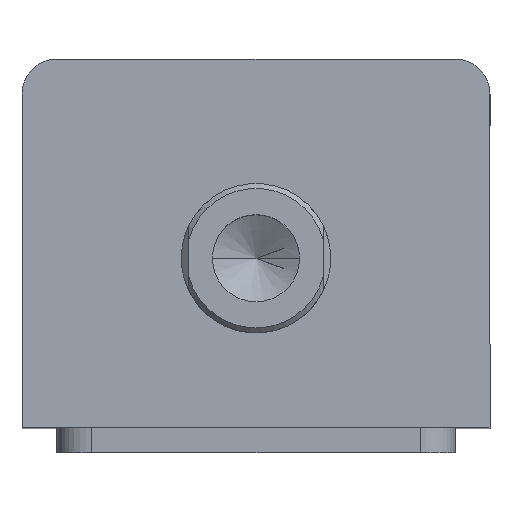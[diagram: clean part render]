
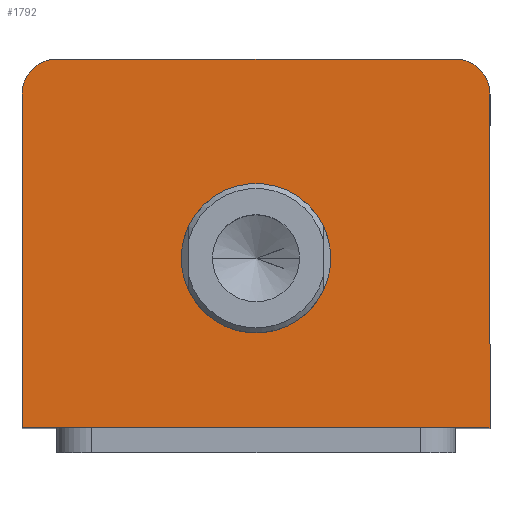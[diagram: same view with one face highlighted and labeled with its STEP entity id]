
A CAD part, top view. The second image highlights one B-rep face of the part: STEP entity #1792.
In plain terms, the highlighted planar face has unit normal (0, 0, 1).
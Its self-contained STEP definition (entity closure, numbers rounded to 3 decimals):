
#264 = VERTEX_POINT ( 'NONE', #1102 ) ;
#273 = VERTEX_POINT ( 'NONE', #1092 ) ;
#424 = FACE_BOUND ( 'NONE', #2170, .T. ) ;
#429 = FACE_OUTER_BOUND ( 'NONE', #2171, .T. ) ;
#762 = CIRCLE ( 'NONE', #1691, 15. ) ;
#764 = LINE ( 'NONE', #1338, #766 ) ;
#766 = VECTOR ( 'NONE', #1337, 1000. ) ;
#798 = LINE ( 'NONE', #2585, #801 ) ;
#801 = VECTOR ( 'NONE', #2584, 1000. ) ;
#802 = CIRCLE ( 'NONE', #1671, 7. ) ;
#811 = CIRCLE ( 'NONE', #1644, 7. ) ;
#824 = LINE ( 'NONE', #2373, #827 ) ;
#827 = VECTOR ( 'NONE', #2366, 1000. ) ;
#850 = CIRCLE ( 'NONE', #1632, 15. ) ;
#941 = LINE ( 'NONE', #2341, #944 ) ;
#944 = VECTOR ( 'NONE', #2339, 1000. ) ;
#1092 = CARTESIAN_POINT ( 'NONE',  ( -47., 30., 160. ) ) ;
#1102 = CARTESIAN_POINT ( 'NONE',  ( -40., 37., 160. ) ) ;
#1249 = AXIS2_PLACEMENT_3D ( 'NONE', #1542, #1519, #1499 ) ;
#1325 = DIRECTION ( 'NONE',  ( 1., 0., 0. ) ) ;
#1326 = DIRECTION ( 'NONE',  ( 0., 0., 1. ) ) ;
#1327 = CARTESIAN_POINT ( 'NONE',  ( 0., -3., 160. ) ) ;
#1337 = DIRECTION ( 'NONE',  ( -1., 0., 0. ) ) ;
#1338 = CARTESIAN_POINT ( 'NONE',  ( -47., 37., 160. ) ) ;
#1499 = DIRECTION ( 'NONE',  ( 1., 0., 0. ) ) ;
#1519 = DIRECTION ( 'NONE',  ( 0., 0., 1. ) ) ;
#1529 = PLANE ( 'NONE',  #1249 ) ;
#1542 = CARTESIAN_POINT ( 'NONE',  ( 0., 0., 160. ) ) ;
#1632 = AXIS2_PLACEMENT_3D ( 'NONE', #2544, #2543, #2542 ) ;
#1644 = AXIS2_PLACEMENT_3D ( 'NONE', #2471, #2468, #2466 ) ;
#1671 = AXIS2_PLACEMENT_3D ( 'NONE', #2547, #2546, #2541 ) ;
#1691 = AXIS2_PLACEMENT_3D ( 'NONE', #1327, #1326, #1325 ) ;
#1792 = ADVANCED_FACE ( 'NONE', ( #424, #429 ), #1529, .T. ) ;
#1924 = EDGE_CURVE ( 'NONE', #2226, #2225, #762, .T. ) ;
#1925 = EDGE_CURVE ( 'NONE', #2276, #264, #764, .T. ) ;
#1943 = EDGE_CURVE ( 'NONE', #2231, #2254, #798, .T. ) ;
#1947 = EDGE_CURVE ( 'NONE', #2254, #2276, #802, .T. ) ;
#1955 = EDGE_CURVE ( 'NONE', #264, #273, #811, .T. ) ;
#1964 = EDGE_CURVE ( 'NONE', #273, #2203, #824, .T. ) ;
#2003 = ORIENTED_EDGE ( 'NONE', *, *, #1947, .T. ) ;
#2004 = ORIENTED_EDGE ( 'NONE', *, *, #1943, .T. ) ;
#2005 = ORIENTED_EDGE ( 'NONE', *, *, #2737, .T. ) ;
#2006 = ORIENTED_EDGE ( 'NONE', *, *, #1964, .T. ) ;
#2007 = ORIENTED_EDGE ( 'NONE', *, *, #1955, .T. ) ;
#2008 = ORIENTED_EDGE ( 'NONE', *, *, #1925, .T. ) ;
#2009 = ORIENTED_EDGE ( 'NONE', *, *, #1924, .F. ) ;
#2010 = ORIENTED_EDGE ( 'NONE', *, *, #2679, .F. ) ;
#2170 = EDGE_LOOP ( 'NONE', ( #2010, #2009 ) ) ;
#2171 = EDGE_LOOP ( 'NONE', ( #2008, #2007, #2006, #2005, #2004, #2003 ) ) ;
#2203 = VERTEX_POINT ( 'NONE', #2400 ) ;
#2225 = VERTEX_POINT ( 'NONE', #2298 ) ;
#2226 = VERTEX_POINT ( 'NONE', #2294 ) ;
#2231 = VERTEX_POINT ( 'NONE', #2637 ) ;
#2254 = VERTEX_POINT ( 'NONE', #2612 ) ;
#2276 = VERTEX_POINT ( 'NONE', #2583 ) ;
#2294 = CARTESIAN_POINT ( 'NONE',  ( -15., -3., 160. ) ) ;
#2298 = CARTESIAN_POINT ( 'NONE',  ( 15., -3., 160. ) ) ;
#2339 = DIRECTION ( 'NONE',  ( 1., 0., 0. ) ) ;
#2341 = CARTESIAN_POINT ( 'NONE',  ( -47., -37., 160. ) ) ;
#2366 = DIRECTION ( 'NONE',  ( 0., -1., 0. ) ) ;
#2373 = CARTESIAN_POINT ( 'NONE',  ( -47., 37., 160. ) ) ;
#2400 = CARTESIAN_POINT ( 'NONE',  ( -47., -37., 160. ) ) ;
#2466 = DIRECTION ( 'NONE',  ( 1., 0., 0. ) ) ;
#2468 = DIRECTION ( 'NONE',  ( 0., 0., 1. ) ) ;
#2471 = CARTESIAN_POINT ( 'NONE',  ( -40., 30., 160. ) ) ;
#2541 = DIRECTION ( 'NONE',  ( 1., 0., 0. ) ) ;
#2542 = DIRECTION ( 'NONE',  ( 1., 0., 0. ) ) ;
#2543 = DIRECTION ( 'NONE',  ( 0., 0., 1. ) ) ;
#2544 = CARTESIAN_POINT ( 'NONE',  ( 0., -3., 160. ) ) ;
#2546 = DIRECTION ( 'NONE',  ( 0., 0., 1. ) ) ;
#2547 = CARTESIAN_POINT ( 'NONE',  ( 40., 30., 160. ) ) ;
#2583 = CARTESIAN_POINT ( 'NONE',  ( 40., 37., 160. ) ) ;
#2584 = DIRECTION ( 'NONE',  ( 0., 1., 0. ) ) ;
#2585 = CARTESIAN_POINT ( 'NONE',  ( 47., 37., 160. ) ) ;
#2612 = CARTESIAN_POINT ( 'NONE',  ( 47., 30., 160. ) ) ;
#2637 = CARTESIAN_POINT ( 'NONE',  ( 47., -37., 160. ) ) ;
#2679 = EDGE_CURVE ( 'NONE', #2225, #2226, #850, .T. ) ;
#2737 = EDGE_CURVE ( 'NONE', #2203, #2231, #941, .T. ) ;
